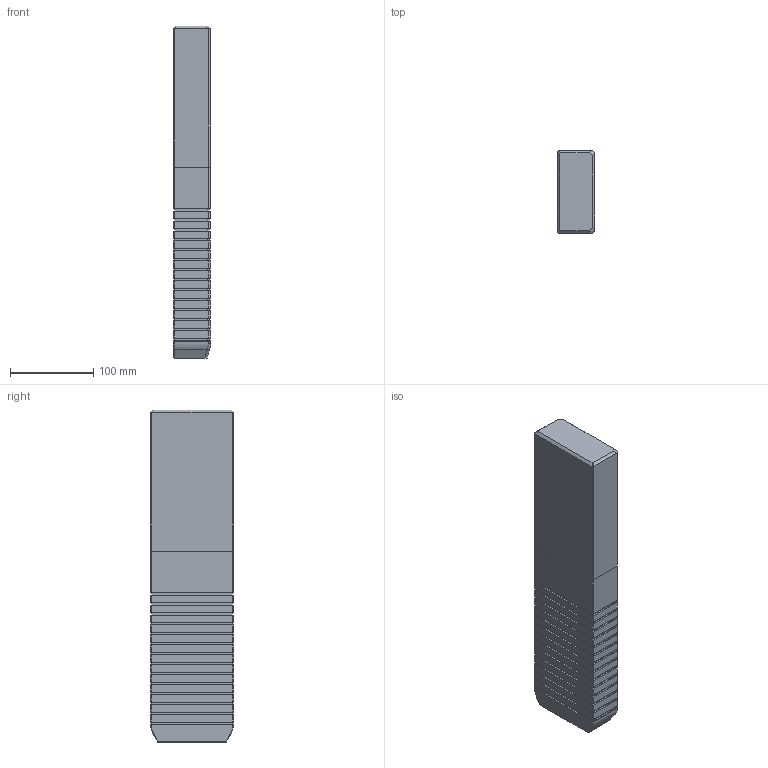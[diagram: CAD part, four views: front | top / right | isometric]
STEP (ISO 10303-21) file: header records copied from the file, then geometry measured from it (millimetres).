
FILE_DESCRIPTION((''),'2;1');
FILE_NAME('','2010-08-30T13:17:15+09:00',('misumi'),(''),'M/STEP i/f 1R2-14','CADmeister v5.1','');
FILE_SCHEMA(('AUTOMOTIVE_DESIGN'));
Length unit declared in the file: millimetre
Products named in the file (1): GWZ100-400
Bounding box: 45 x 100 x 400 mm (x, y, z)
Volume: 1764833.6 mm3; surface area: 133797.9 mm2
Topology: 1 solids, 1 shells, 300 faces, 785 edges, 516 vertices
Faces by surface type: plane 287, bspline 6, cylinder 5, cone 2
Entity records: 9375 total; most frequent: CARTESIAN_POINT 1944, ORIENTED_EDGE 1570, DIRECTION 1365, EDGE_CURVE 785, LINE 759, VECTOR 759, VERTEX_POINT 516, EDGE_LOOP 329
